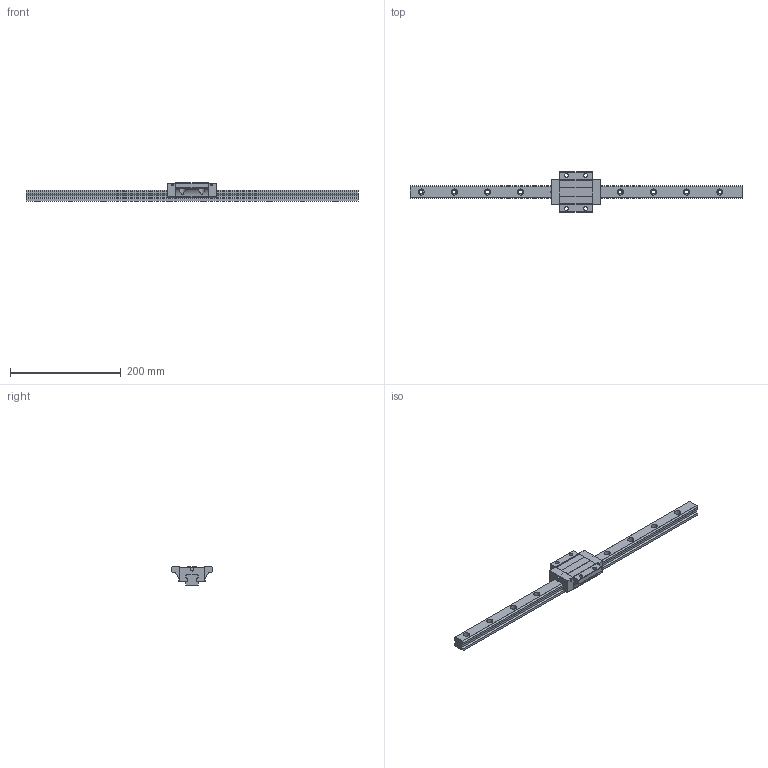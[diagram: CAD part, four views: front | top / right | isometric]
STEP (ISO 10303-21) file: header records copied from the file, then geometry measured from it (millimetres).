
FILE_DESCRIPTION (( 'STEP AP203' ), '1' );
FILE_NAME ('TRS25FN-ZN.STEP', '2024-05-23T01:21:29', ( '' ), ( '' ), 'SwSTEP 2.0', 'SolidWorks 2022', '' );
FILE_SCHEMA (( 'CONFIG_CONTROL_DESIGN' ));
Length unit declared in the file: millimetre
Products named in the file (1): TRS25FN-ZN
Bounding box: 600 x 73 x 33 mm (x, y, z)
Volume: 334331.7 mm3; surface area: 81221.2 mm2
Topology: 2 solids, 2 shells, 230 faces, 614 edges, 400 vertices
Faces by surface type: cylinder 126, plane 100, sphere 4
Entity records: 7971 total; most frequent: CARTESIAN_POINT 1955, DIRECTION 1274, ORIENTED_EDGE 1220, EDGE_CURVE 610, AXIS2_PLACEMENT_3D 459, VERTEX_POINT 400, LINE 356, VECTOR 356
